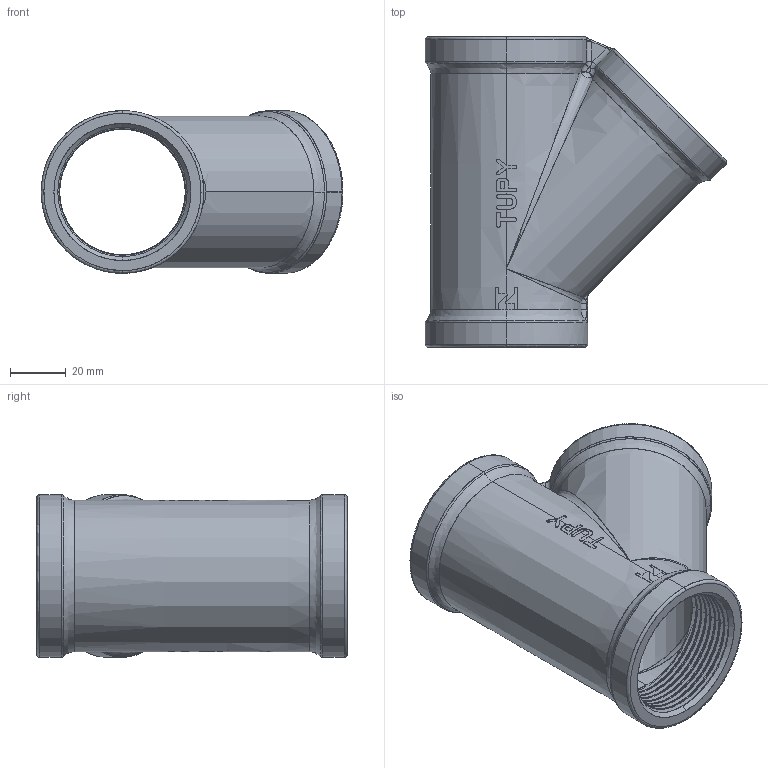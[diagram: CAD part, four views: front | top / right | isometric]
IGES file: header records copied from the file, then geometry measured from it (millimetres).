
Start section: SolidWorks IGES file using analytic representation for surfaces
Global section: file name: C:\Users\Joel Rosa\Desktop\Tubulação\12-54-XXX\12-54-009.IGS; native system: SolidWorks 2011; preprocessor: SolidWorks 2011; author: Joel Rosa; date: 121213.024010; units: millimetre
Bounding box: 107.95 x 111 x 58.2 mm (x, y, z)
Surface area: 55347.9 mm2 (no closed solid volume)
Topology: 0 solids, 0 shells, 472 faces, 4126 edges, 4110 vertices
Faces by surface type: bspline 319, revolution 153
